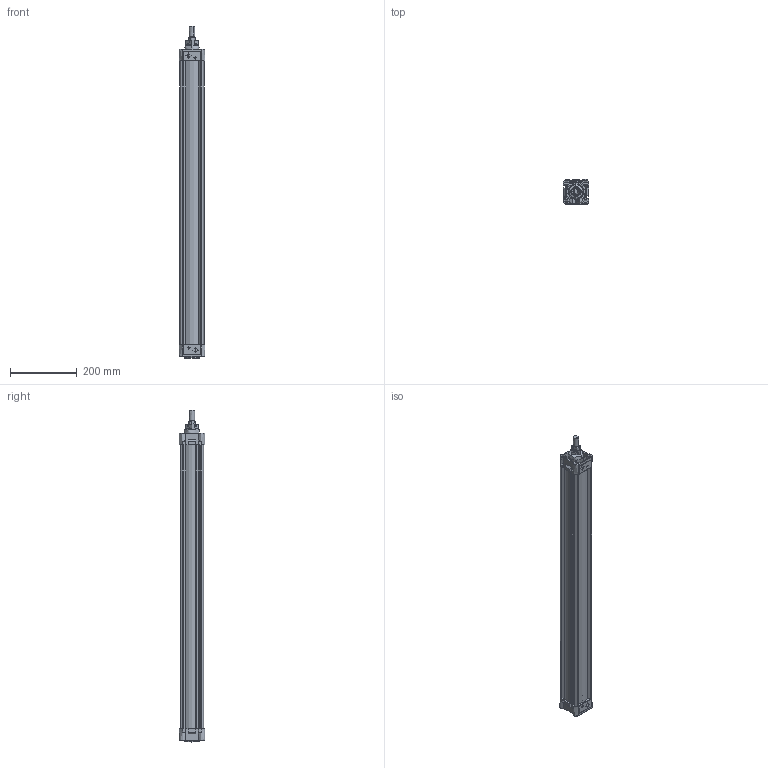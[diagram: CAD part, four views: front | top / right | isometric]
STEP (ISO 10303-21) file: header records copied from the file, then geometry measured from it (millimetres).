
FILE_DESCRIPTION (( 'STEP AP203' ), '1' );
FILE_NAME ('KDNT63x800CYLINDER.STEP', '2015-03-07T10:17:03', ( 'user' ), ( '' ), 'SwSTEP 2.0', 'SolidWorks 2013', '' );
FILE_SCHEMA (( 'CONFIG_CONTROL_DESIGN' ));
Length unit declared in the file: millimetre
Products named in the file (6): ORTA PÝSTON 63; Piston Mili 63x800; KDNT63x800CYLINDER; ARKA KAPAK  63; KDNT 63X800 BORU; 烰 KAPAK  63
Assembly tree (5 placements, depth 2):
  KDNT63x800CYLINDER
    ARKA KAPAK  63
    KDNT 63X800 BORU
    烰 KAPAK  63
    ORTA PÝSTON 63
    Piston Mili 63x800
Bounding box: 75.55 x 75.83 x 994 mm (x, y, z)
Topology: 6 solids, 7 shells, 833 faces, 2202 edges, 1423 vertices
Faces by surface type: cylinder 400, plane 272, bspline 82, cone 79
Entity records: 36204 total; most frequent: CARTESIAN_POINT 16400, ORIENTED_EDGE 4388, DIRECTION 3434, EDGE_CURVE 2194, VERTEX_POINT 1423, AXIS2_PLACEMENT_3D 1282, EDGE_LOOP 941, LINE 870
